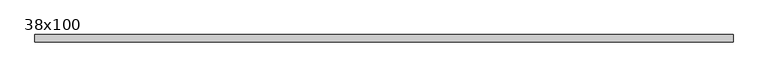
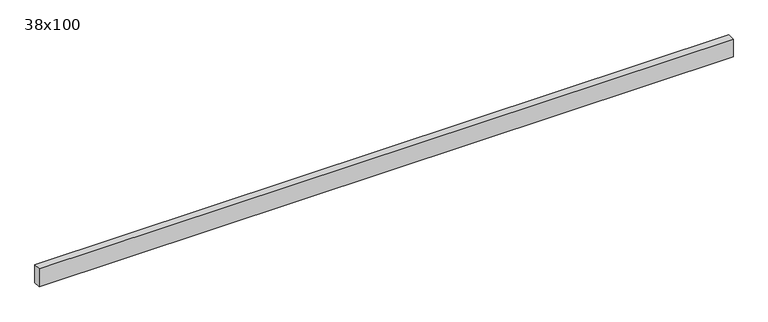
"""IFC4 building model written with IfcOpenShell, lengths in millimetres: beam geometry, Poutre - Bois de construction de dimensions courantes : 38x100."""

from ifc_helpers import new_model, si_unit, frame, origin, place, context, project, spatial, polyline, outline, extrude, source, transform, mapped, element, save


def beam_38x100_e8cc3e6a(model_context):
    return source(origin(), model_context, "Body", "SweptSolid", [
        extrude(outline(polyline([(1848.5, 19.05), (1848.5, -19.05), (-1848.5, -19.05), (-1848.5, 19.05), (1848.5, 19.05)])), frame((0.0, 0.0, -50.0), z_axis=(0.0, 0.0, 1.0), x_axis=(1.0, 0.0, 0.0)), (0.0, 0.0, 1.0), 100.0),
    ])


if __name__ == "__main__":
    model = new_model("IFC4")
    model_context = context("Model", 3, world=origin())
    ifc_project = project(units=[si_unit("LENGTHUNIT", "METRE", prefix="MILLI")], contexts=[model_context])
    site = spatial("IfcSite", under=ifc_project)
    building = spatial("IfcBuilding", under=site)
    placement = place(None, origin())
    beam_38x100_shape = beam_38x100_e8cc3e6a(model_context)
    element("IfcBeam", 1, ObjectType="Poutre - Bois de construction de dimensions courantes : 38x100", at=placement, inside=building, context=model_context, shape_type="MappedRepresentation", body=[
        mapped(beam_38x100_shape, transform((0.0, 0.0, 0.0), x_axis=(1.0, 0.0, 0.0), y_axis=(0.0, 1.0, 0.0), z_axis=(0.0, 0.0, 1.0))),
    ])
    save(model, "model.ifc")
